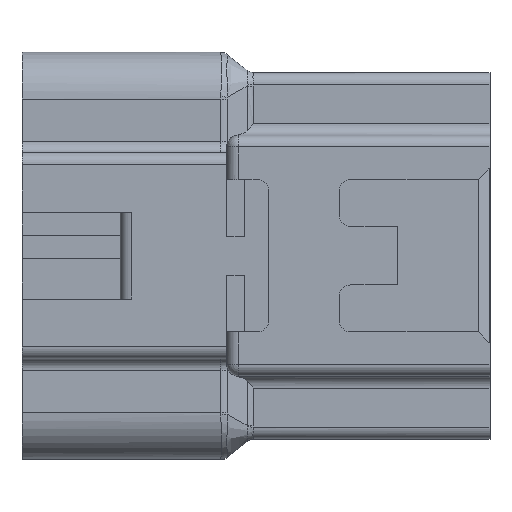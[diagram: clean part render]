
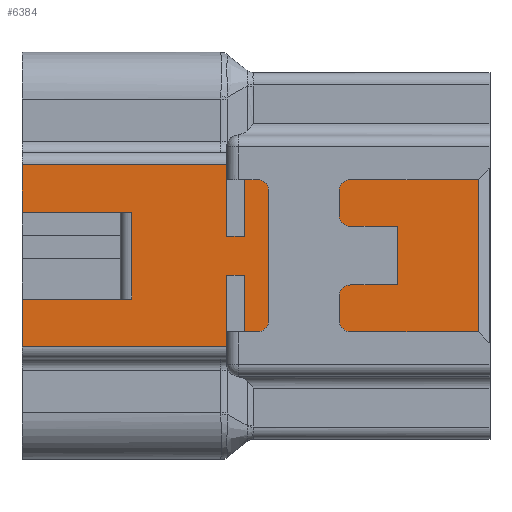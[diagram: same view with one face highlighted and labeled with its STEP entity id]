
A CAD part, top view. The second image highlights one B-rep face of the part: STEP entity #6384.
In plain terms, the highlighted planar face has unit normal (0, 0, 1).
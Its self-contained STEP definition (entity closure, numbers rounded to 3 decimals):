
#4557=CARTESIAN_POINT('Vertex',(21.,3.5,7.55)) ;
#4604=CARTESIAN_POINT('Vertex',(21.,20.6,7.55)) ;
#4607=CARTESIAN_POINT('Line Origine',(21.,12.05,7.55)) ;
#4659=CARTESIAN_POINT('Vertex',(1.,3.5,7.55)) ;
#4669=CARTESIAN_POINT('Line Origine',(11.,3.5,7.55)) ;
#4747=CARTESIAN_POINT('Vertex',(1.,10.4,7.55)) ;
#4764=CARTESIAN_POINT('Line Origine',(1.,6.95,7.55)) ;
#4793=CARTESIAN_POINT('Vertex',(1.,20.6,7.55)) ;
#4796=CARTESIAN_POINT('Line Origine',(11.,20.6,7.55)) ;
#4813=CARTESIAN_POINT('Line Origine',(0.25,10.4,7.55)) ;
#4817=CARTESIAN_POINT('Vertex',(-0.5,10.4,7.55)) ;
#4857=CARTESIAN_POINT('Vertex',(1.,13.7,7.55)) ;
#4860=CARTESIAN_POINT('Line Origine',(1.,17.15,7.55)) ;
#4878=CARTESIAN_POINT('Line Origine',(0.25,13.7,7.55)) ;
#4882=CARTESIAN_POINT('Vertex',(-0.5,13.7,7.55)) ;
#5700=CARTESIAN_POINT('Vertex',(-18.,4.25,7.55)) ;
#5716=CARTESIAN_POINT('Vertex',(-0.5,4.25,7.55)) ;
#5719=CARTESIAN_POINT('Line Origine',(1.5,4.25,7.55)) ;
#5742=CARTESIAN_POINT('Vertex',(-18.,19.85,7.55)) ;
#5745=CARTESIAN_POINT('Line Origine',(1.5,19.85,7.55)) ;
#5749=CARTESIAN_POINT('Vertex',(-0.5,19.85,7.55)) ;
#5993=CARTESIAN_POINT('Line Origine',(-18.,6.3,7.55)) ;
#5997=CARTESIAN_POINT('Vertex',(-18.,8.35,7.55)) ;
#6009=CARTESIAN_POINT('Vertex',(-18.,15.75,7.55)) ;
#6012=CARTESIAN_POINT('Line Origine',(-18.,17.8,7.55)) ;
#6263=CARTESIAN_POINT('Vertex',(-8.6,15.75,7.55)) ;
#6266=CARTESIAN_POINT('Line Origine',(-13.3,15.75,7.55)) ;
#6293=CARTESIAN_POINT('Line Origine',(-13.3,8.35,7.55)) ;
#6297=CARTESIAN_POINT('Vertex',(-8.6,8.35,7.55)) ;
#6346=CARTESIAN_POINT('Axis2P3D Location',(0.,20.85,7.55)) ;
#6351=CARTESIAN_POINT('Line Origine',(-8.6,12.05,7.55)) ;
#6356=CARTESIAN_POINT('Line Origine',(-0.5,7.325,7.55)) ;
#6361=CARTESIAN_POINT('Line Origine',(-0.5,16.775,7.55)) ;
#4608=DIRECTION('Vector Direction',(0.,1.,0.)) ;
#4670=DIRECTION('Vector Direction',(-1.,0.,0.)) ;
#4765=DIRECTION('Vector Direction',(0.,-1.,0.)) ;
#4797=DIRECTION('Vector Direction',(-1.,0.,0.)) ;
#4814=DIRECTION('Vector Direction',(1.,0.,0.)) ;
#4861=DIRECTION('Vector Direction',(0.,-1.,0.)) ;
#4879=DIRECTION('Vector Direction',(1.,0.,0.)) ;
#5720=DIRECTION('Vector Direction',(-1.,0.,0.)) ;
#5746=DIRECTION('Vector Direction',(-1.,0.,0.)) ;
#5994=DIRECTION('Vector Direction',(0.,1.,0.)) ;
#6013=DIRECTION('Vector Direction',(0.,1.,0.)) ;
#6267=DIRECTION('Vector Direction',(1.,0.,0.)) ;
#6294=DIRECTION('Vector Direction',(1.,0.,0.)) ;
#6347=DIRECTION('Axis2P3D Direction',(-0.,-0.,-1.)) ;
#6348=DIRECTION('Axis2P3D XDirection',(0.,-1.,0.)) ;
#6352=DIRECTION('Vector Direction',(0.,1.,0.)) ;
#6357=DIRECTION('Vector Direction',(0.,-1.,0.)) ;
#6362=DIRECTION('Vector Direction',(0.,-1.,0.)) ;
#6349=AXIS2_PLACEMENT_3D('Plane Axis2P3D',#6346,#6347,#6348) ;
#6367=ORIENTED_EDGE('',*,*,#6270,.F.) ;
#6368=ORIENTED_EDGE('',*,*,#6355,.F.) ;
#6369=ORIENTED_EDGE('',*,*,#6299,.F.) ;
#6370=ORIENTED_EDGE('',*,*,#5999,.F.) ;
#6371=ORIENTED_EDGE('',*,*,#5723,.F.) ;
#6372=ORIENTED_EDGE('',*,*,#6360,.F.) ;
#6373=ORIENTED_EDGE('',*,*,#4819,.T.) ;
#6374=ORIENTED_EDGE('',*,*,#4768,.T.) ;
#6375=ORIENTED_EDGE('',*,*,#4673,.F.) ;
#6376=ORIENTED_EDGE('',*,*,#4611,.T.) ;
#6377=ORIENTED_EDGE('',*,*,#4800,.T.) ;
#6378=ORIENTED_EDGE('',*,*,#4864,.T.) ;
#6379=ORIENTED_EDGE('',*,*,#4884,.F.) ;
#6380=ORIENTED_EDGE('',*,*,#6365,.F.) ;
#6381=ORIENTED_EDGE('',*,*,#5751,.T.) ;
#6382=ORIENTED_EDGE('',*,*,#6016,.F.) ;
#4609=VECTOR('Line Direction',#4608,1.) ;
#4671=VECTOR('Line Direction',#4670,1.) ;
#4766=VECTOR('Line Direction',#4765,1.) ;
#4798=VECTOR('Line Direction',#4797,1.) ;
#4815=VECTOR('Line Direction',#4814,1.) ;
#4862=VECTOR('Line Direction',#4861,1.) ;
#4880=VECTOR('Line Direction',#4879,1.) ;
#5721=VECTOR('Line Direction',#5720,1.) ;
#5747=VECTOR('Line Direction',#5746,1.) ;
#5995=VECTOR('Line Direction',#5994,1.) ;
#6014=VECTOR('Line Direction',#6013,1.) ;
#6268=VECTOR('Line Direction',#6267,1.) ;
#6295=VECTOR('Line Direction',#6294,1.) ;
#6353=VECTOR('Line Direction',#6352,1.) ;
#6358=VECTOR('Line Direction',#6357,1.) ;
#6363=VECTOR('Line Direction',#6362,1.) ;
#6384=ADVANCED_FACE('\X2\FF8AFF9FFF70FF82\X0\ \X2\FF8EFF9EFF83FF9EFF68FF70\X0\',(#6383),#6350,.F.) ;
#4611=EDGE_CURVE('',#4558,#4605,#4610,.T.) ;
#4673=EDGE_CURVE('',#4558,#4660,#4672,.T.) ;
#4768=EDGE_CURVE('',#4748,#4660,#4767,.T.) ;
#4800=EDGE_CURVE('',#4605,#4794,#4799,.T.) ;
#4819=EDGE_CURVE('',#4818,#4748,#4816,.T.) ;
#4864=EDGE_CURVE('',#4794,#4858,#4863,.T.) ;
#4884=EDGE_CURVE('',#4883,#4858,#4881,.T.) ;
#5723=EDGE_CURVE('',#5717,#5701,#5722,.T.) ;
#5751=EDGE_CURVE('',#5750,#5743,#5748,.T.) ;
#5999=EDGE_CURVE('',#5701,#5998,#5996,.T.) ;
#6016=EDGE_CURVE('',#6010,#5743,#6015,.T.) ;
#6270=EDGE_CURVE('',#6264,#6010,#6269,.F.) ;
#6299=EDGE_CURVE('',#5998,#6298,#6296,.T.) ;
#6355=EDGE_CURVE('',#6298,#6264,#6354,.T.) ;
#6360=EDGE_CURVE('',#4818,#5717,#6359,.T.) ;
#6365=EDGE_CURVE('',#5750,#4883,#6364,.T.) ;
#6366=EDGE_LOOP('',(#6367,#6368,#6369,#6370,#6371,#6372,#6373,#6374,#6375,#6376,#6377,#6378,#6379,#6380,#6381,#6382)) ;
#6383=FACE_OUTER_BOUND('',#6366,.T.) ;
#4610=LINE('Line',#4607,#4609) ;
#4672=LINE('Line',#4669,#4671) ;
#4767=LINE('Line',#4764,#4766) ;
#4799=LINE('Line',#4796,#4798) ;
#4816=LINE('Line',#4813,#4815) ;
#4863=LINE('Line',#4860,#4862) ;
#4881=LINE('Line',#4878,#4880) ;
#5722=LINE('Line',#5719,#5721) ;
#5748=LINE('Line',#5745,#5747) ;
#5996=LINE('Line',#5993,#5995) ;
#6015=LINE('Line',#6012,#6014) ;
#6269=LINE('Line',#6266,#6268) ;
#6296=LINE('Line',#6293,#6295) ;
#6354=LINE('Line',#6351,#6353) ;
#6359=LINE('Line',#6356,#6358) ;
#6364=LINE('Line',#6361,#6363) ;
#6350=PLANE('',#6349) ;
#4558=VERTEX_POINT('',#4557) ;
#4605=VERTEX_POINT('',#4604) ;
#4660=VERTEX_POINT('',#4659) ;
#4748=VERTEX_POINT('',#4747) ;
#4794=VERTEX_POINT('',#4793) ;
#4818=VERTEX_POINT('',#4817) ;
#4858=VERTEX_POINT('',#4857) ;
#4883=VERTEX_POINT('',#4882) ;
#5701=VERTEX_POINT('',#5700) ;
#5717=VERTEX_POINT('',#5716) ;
#5743=VERTEX_POINT('',#5742) ;
#5750=VERTEX_POINT('',#5749) ;
#5998=VERTEX_POINT('',#5997) ;
#6010=VERTEX_POINT('',#6009) ;
#6264=VERTEX_POINT('',#6263) ;
#6298=VERTEX_POINT('',#6297) ;
